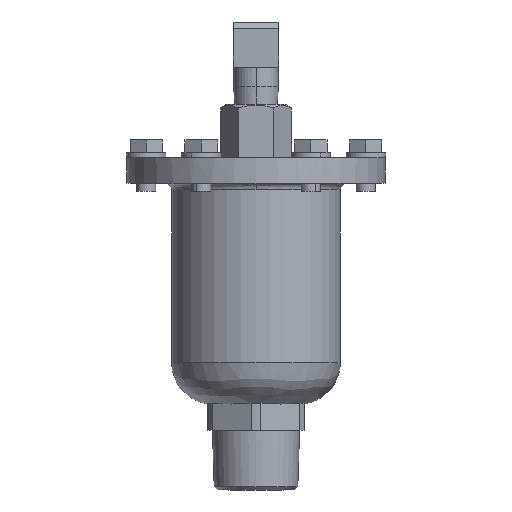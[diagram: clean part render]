
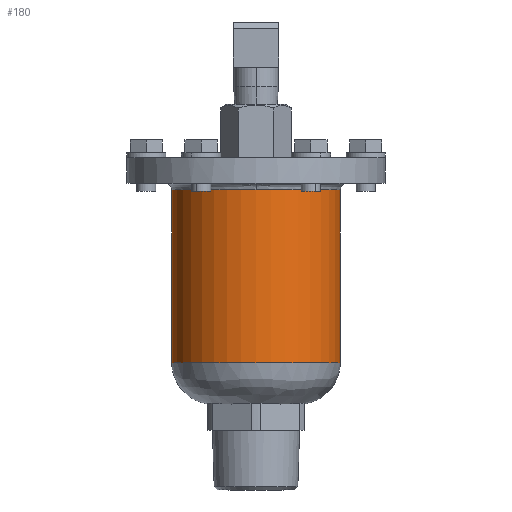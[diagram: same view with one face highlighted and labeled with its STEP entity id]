
A CAD part, left-side view. The second image highlights one B-rep face of the part: STEP entity #180.
In plain terms, the highlighted cylindrical face has radius 26.1 mm (diameter 52.2 mm), a partial arc.
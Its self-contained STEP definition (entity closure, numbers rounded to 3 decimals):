
#180=ADVANCED_FACE('',(#1301),#1300,.T.);
#1300=CYLINDRICAL_SURFACE('',#2321,26.1);
#1301=FACE_OUTER_BOUND('',#2322,.T.);
#2318=CARTESIAN_POINT('',(0.,39.75,0.));
#2319=DIRECTION('',(0.,-1.,0.));
#2320=DIRECTION('',(0.,0.,-1.));
#2321=AXIS2_PLACEMENT_3D('',#2318,#2319,#2320);
#2322=EDGE_LOOP('',(#3225,#3226,#3227,#3228,#3229));
#3225=ORIENTED_EDGE('',*,*,#3764,.F.);
#3226=ORIENTED_EDGE('',*,*,#3765,.F.);
#3227=ORIENTED_EDGE('',*,*,#3760,.T.);
#3228=ORIENTED_EDGE('',*,*,#3766,.T.);
#3229=ORIENTED_EDGE('',*,*,#3763,.F.);
#3760=EDGE_CURVE('',#5862,#5855,#5863,.T.);
#3763=EDGE_CURVE('',#5876,#5854,#5883,.T.);
#3764=EDGE_CURVE('',#5889,#5876,#5890,.T.);
#3765=EDGE_CURVE('',#5862,#5889,#5896,.T.);
#3766=EDGE_CURVE('',#5855,#5854,#5902,.T.);
#5854=VERTEX_POINT('',#7556);
#5855=VERTEX_POINT('',#7557);
#5862=VERTEX_POINT('',#7562);
#5863=(BOUNDED_CURVE() B_SPLINE_CURVE(1,(#7563,#7564),.UNSPECIFIED.,.F.,.F.) B_SPLINE_CURVE_WITH_KNOTS((2,2),(0.083,0.917),.UNSPECIFIED.) CURVE() GEOMETRIC_REPRESENTATION_ITEM() RATIONAL_B_SPLINE_CURVE((1.,1.)) REPRESENTATION_ITEM('') );
#5876=VERTEX_POINT('',#7570);
#5883=(BOUNDED_CURVE() B_SPLINE_CURVE(1,(#7575,#7576),.UNSPECIFIED.,.F.,.F.) B_SPLINE_CURVE_WITH_KNOTS((2,2),(0.083,0.917),.UNSPECIFIED.) CURVE() GEOMETRIC_REPRESENTATION_ITEM() RATIONAL_B_SPLINE_CURVE((0.75,0.75)) REPRESENTATION_ITEM('') );
#5889=VERTEX_POINT('',#7577);
#5890=CIRCLE('',#7581,26.1);
#5896=CIRCLE('',#7585,26.1);
#5902=CIRCLE('',#7589,26.1);
#7556=CARTESIAN_POINT('',(0.,13.,26.1));
#7557=CARTESIAN_POINT('',(0.,13.,-26.1));
#7562=CARTESIAN_POINT('',(0.,66.5,-26.1));
#7563=CARTESIAN_POINT('',(0.,66.5,-26.1));
#7564=CARTESIAN_POINT('',(0.,13.,-26.1));
#7570=CARTESIAN_POINT('',(0.,66.5,26.1));
#7575=CARTESIAN_POINT('',(0.,66.5,26.1));
#7576=CARTESIAN_POINT('',(0.,13.,26.1));
#7577=CARTESIAN_POINT('',(-26.1,66.5,0.));
#7578=CARTESIAN_POINT('',(0.,66.5,0.));
#7579=DIRECTION('',(0.,1.,0.));
#7580=DIRECTION('',(0.,0.,1.));
#7581=AXIS2_PLACEMENT_3D('',#7578,#7579,#7580);
#7582=CARTESIAN_POINT('',(0.,66.5,0.));
#7583=DIRECTION('',(0.,1.,0.));
#7584=DIRECTION('',(0.,0.,1.));
#7585=AXIS2_PLACEMENT_3D('',#7582,#7583,#7584);
#7586=CARTESIAN_POINT('',(0.,13.,0.));
#7587=DIRECTION('',(0.,1.,0.));
#7588=DIRECTION('',(0.,0.,-1.));
#7589=AXIS2_PLACEMENT_3D('',#7586,#7587,#7588);
